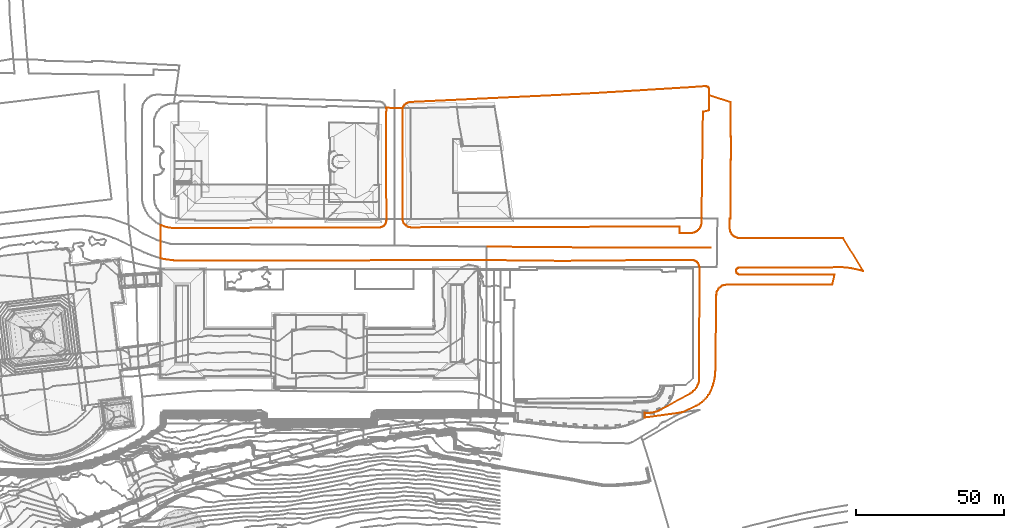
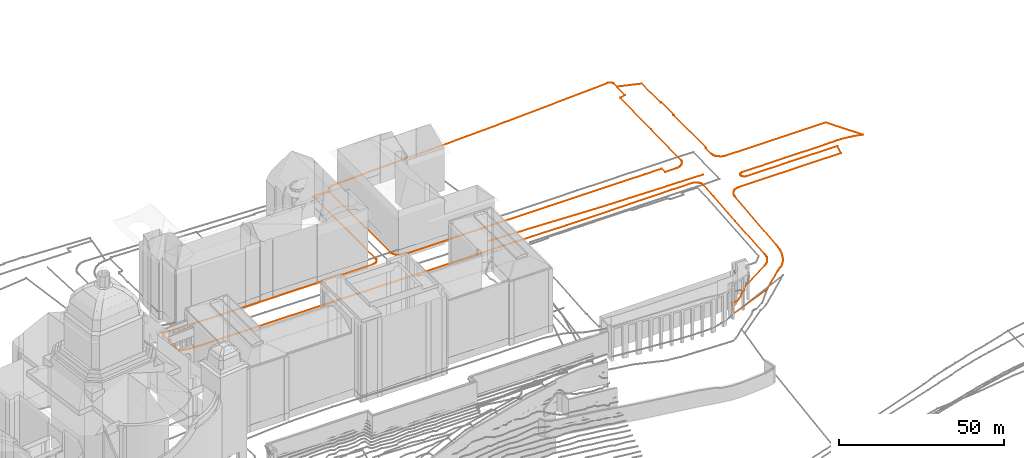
# Not in any storey, part 223 of 494: 3 proxies.
"""IFC2X3 model written with IfcOpenShell, lengths in metres."""

from ifc_helpers import new_model, entity, si_unit, frame, origin_with_axes, place, context, subcontext, project, element, save


model = new_model("IFC2X3")

# Units and contexts
model_context = context("Model", 3, precision=1e-05, world=origin_with_axes())
body_context = subcontext(model_context, "Body", "Model", "MODEL_VIEW")
ifc_project = project(units=[si_unit("AREAUNIT", "SQUARE_METRE"), si_unit("LENGTHUNIT", "METRE")], contexts=[model_context])

# Proxies
proxy_1_placement = place(None, frame((683.7557320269, 417.2007304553, 542.348), z_axis=(0.0, 0.0, 1.0), x_axis=(1.0, 0.0, 0.0)))
element("IfcBuildingElementProxy", 1, at=proxy_1_placement, Name="Road 37", ObjectType="NOTDEFINED", context=body_context, shape_type="GeometricCurveSet", body=[
    entity("IfcGeometricCurveSet", [entity("IfcPolyline", [entity("IfcCartesianPoint", [0.0, 0.0, 0.0]), entity("IfcCartesianPoint", [39.1219999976, -0.328999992, -0.998]), entity("IfcCartesianPoint", [75.5399999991, -0.2699999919, -1.55])])]),
])
proxy_2_placement = place(None, frame((655.3217320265, 463.4627160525, 542.5333745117), z_axis=(0.0, 0.0, 1.0), x_axis=(1.0, 0.0, 0.0)))
element("IfcBuildingElementProxy", 2, at=proxy_2_placement, Name="Roads Outline 49", ObjectType="NOTDEFINED", context=body_context, shape_type="GeometricCurveSet", body=[
    entity("IfcGeometricCurveSet", [entity("IfcPolyline", [entity("IfcCartesianPoint", [0.0, 0.0, 0.0]), entity("IfcCartesianPoint", [0.0380000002, 0.2349999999, 0.0022196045]), entity("IfcCartesianPoint", [0.0960000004, 0.4649999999, 0.0056074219]), entity("IfcCartesianPoint", [0.2630000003, 0.8999999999, 0.0153619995]), entity("IfcCartesianPoint", [0.4980000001, 1.301, 0.029088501]), entity("IfcCartesianPoint", [0.7950000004, 1.6599999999, 0.0464364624]), entity("IfcCartesianPoint", [1.1460000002, 1.9659999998, 0.0592036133]), entity("IfcCartesianPoint", [1.5430000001, 2.2109999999, 0.0718037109]), entity("IfcCartesianPoint", [1.9750000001, 2.3879999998, 0.0804522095]), entity("IfcCartesianPoint", [2.429, 2.4929999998, 0.0755475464]), entity("IfcCartesianPoint", [2.895, 2.524, 0.070220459]), entity("IfcCartesianPoint", [30.838, 3.8589999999, -0.0687895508]), entity("IfcCartesianPoint", [51.037, 4.8029999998, -0.0975834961]), entity("IfcCartesianPoint", [64.5640000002, 5.5059999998, -0.0975834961]), entity("IfcCartesianPoint", [65.77, 5.5799999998, -0.0975834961]), entity("IfcCartesianPoint", [97.1940000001, 7.5079999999, -0.0975834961]), entity("IfcCartesianPoint", [101.7340000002, 7.8429999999, -0.0975834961]), entity("IfcCartesianPoint", [102.0890000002, 7.8689999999, -0.0975834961]), entity("IfcCartesianPoint", [102.3480000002, 7.8559999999, -0.0975834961]), entity("IfcCartesianPoint", [102.5990000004, 7.7899999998, -0.0975834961]), entity("IfcCartesianPoint", [102.8300000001, 7.6739999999, -0.0975834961]), entity("IfcCartesianPoint", [103.0330000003, 7.5119999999, -0.0975834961]), entity("IfcCartesianPoint", [103.2110000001, 7.2959999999, -0.0975834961]), entity("IfcCartesianPoint", [103.3370000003, 7.0469999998, -0.0975834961]), entity("IfcCartesianPoint", [103.4050000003, 6.7759999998, -0.0975834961]), entity("IfcCartesianPoint", [103.4110000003, 6.4959999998, -0.0975834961]), entity("IfcCartesianPoint", [103.395, 4.7869999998, -0.0975834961]), entity("IfcCartesianPoint", [103.3470000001, -0.28, -0.0975834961]), entity("IfcCartesianPoint", [101.3400000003, -0.7980000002, -0.0975834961]), entity("IfcCartesianPoint", [101.0890000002, -19.8530000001, -0.0975834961]), entity("IfcCartesianPoint", [100.8670000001, -36.7070000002, -0.0697157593]), entity("IfcCartesianPoint", [100.8430000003, -38.5660000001, -0.1252501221]), entity("IfcCartesianPoint", [100.747, -39.0340000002, -0.1258526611]), entity("IfcCartesianPoint", [100.5900000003, -39.4840000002, -0.1055554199]), entity("IfcCartesianPoint", [100.3740000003, -39.9100000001, -0.0872841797]), entity("IfcCartesianPoint", [100.1030000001, -40.3030000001, -0.0727001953]), entity("IfcCartesianPoint", [99.7820000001, -40.6560000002, -0.0596005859]), entity("IfcCartesianPoint", [99.429, -40.9530000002, -0.0507507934]), entity("IfcCartesianPoint", [99.0410000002, -41.2030000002, -0.0448456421]), entity("IfcCartesianPoint", [98.6240000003, -41.4000000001, -0.0401923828]), entity("IfcCartesianPoint", [98.1850000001, -41.5420000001, -0.0368382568]), entity("IfcCartesianPoint", [97.7320000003, -41.625, -0.0348777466]), entity("IfcCartesianPoint", [97.2710000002, -41.6500000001, -0.0342872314]), entity("IfcCartesianPoint", [93.452, -41.6440000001, -0.0344289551]), entity("IfcCartesianPoint", [93.4410000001, -39.554, -0.1023980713]), entity("IfcCartesianPoint", [87.6530000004, -39.5680000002, -0.1017666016]), entity("IfcCartesianPoint", [53.8470000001, -39.5960000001, -0.1005036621]), entity("IfcCartesianPoint", [28.3020000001, -39.6850000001, -0.0732762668]), entity("IfcCartesianPoint", [2.838, -39.7680000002, -0.0694016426]), entity("IfcCartesianPoint", [2.426, -39.7150000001, -0.0871056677]), entity("IfcCartesianPoint", [2.0260000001, -39.6060000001, -0.0983853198]), entity("IfcCartesianPoint", [1.645, -39.442, -0.0781794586]), entity("IfcCartesianPoint", [1.29, -39.226, -0.0438067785]), entity("IfcCartesianPoint", [0.969, -38.9630000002, -0.0194923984]), entity("IfcCartesianPoint", [0.6880000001, -38.6580000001, -0.0108138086]), entity("IfcCartesianPoint", [0.4240000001, -38.2680000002, -0.0071667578]), entity("IfcCartesianPoint", [0.2250000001, -37.841, -0.0051163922]), entity("IfcCartesianPoint", [0.0960000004, -37.388, -0.0107059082]), entity("IfcCartesianPoint", [0.0410000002, -36.9200000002, -0.0164809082]), entity("IfcCartesianPoint", [0.04, -36.7410000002, -0.0163080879]), entity("IfcCartesianPoint", [0.0490000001, -36.5620000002, -0.0121205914]), entity("IfcCartesianPoint", [0.0, 0.0, 0.0])])]),
])
proxy_3_placement = place(None, frame((573.6847320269, 424.5197160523, 542.7638234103), z_axis=(0.0, 0.0, 1.0), x_axis=(1.0, 0.0, 0.0)))
element("IfcBuildingElementProxy", 3, at=proxy_3_placement, Name="Roads Outline 96", ObjectType="NOTDEFINED", context=body_context, shape_type="GeometricCurveSet", body=[
    entity("IfcGeometricCurveSet", [entity("IfcPolyline", [entity("IfcCartesianPoint", [0.0, 0.0, 0.0]), entity("IfcCartesianPoint", [0.2489999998, -0.115, 0.0011326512]), entity("IfcCartesianPoint", [0.5, -0.2239999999, 0.000881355]), entity("IfcCartesianPoint", [1.3329999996, -0.531, 0.0236473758]), entity("IfcCartesianPoint", [2.1879999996, -0.7679999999, 0.0206101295]), entity("IfcCartesianPoint", [3.0609999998, -0.9319999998, 0.0002791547]), entity("IfcCartesianPoint", [3.9439999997, -1.0229999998, 0.0152657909]), entity("IfcCartesianPoint", [4.8309999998, -1.041, 0.037650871]), entity("IfcCartesianPoint", [31.1329999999, -0.98, -0.0812635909]), entity("IfcCartesianPoint", [73.716, -0.875, -0.1935632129]), entity("IfcCartesianPoint", [74.1089999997, -0.8469999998, -0.1988061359]), entity("IfcCartesianPoint", [74.4919999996, -0.7559999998, -0.20711216]), entity("IfcCartesianPoint", [74.8559999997, -0.6069999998, -0.2119425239]), entity("IfcCartesianPoint", [75.193, -0.402, -0.2184551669]), entity("IfcCartesianPoint", [75.4919999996, -0.1459999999, -0.2262686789]), entity("IfcCartesianPoint", [75.7449999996, 0.152, -0.2375911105]), entity("IfcCartesianPoint", [75.949, 0.486, -0.2467470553]), entity("IfcCartesianPoint", [76.0970000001, 0.848, -0.2552292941]), entity("IfcCartesianPoint", [76.1869999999, 1.2290000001, -0.2625016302]), entity("IfcCartesianPoint", [76.216, 1.6190000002, -0.266546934]), entity("IfcCartesianPoint", [76.2149999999, 2.0110000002, -0.2710626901]), entity("IfcCartesianPoint", [76.1159999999, 38.084, -0.2791315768]), entity("IfcCartesianPoint", [76.1969999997, 38.5560000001, -0.2830026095]), entity("IfcCartesianPoint", [76.1979999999, 39.034, -0.2830504]), entity("IfcCartesianPoint", [76.1189999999, 39.5060000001, -0.2792749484]), entity("IfcCartesianPoint", [81.733, 39.4080000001, -0.2248414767]), entity("IfcCartesianPoint", [81.6749999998, 39.1780000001, -0.2282292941]), entity("IfcCartesianPoint", [81.6369999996, 38.9430000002, -0.2304488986]), entity("IfcCartesianPoint", [81.6859999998, 2.3810000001, -0.24256949]), entity("IfcCartesianPoint", [81.6769999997, 2.202, -0.2467569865]), entity("IfcCartesianPoint", [81.6779999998, 2.023, -0.2469298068]), entity("IfcCartesianPoint", [81.733, 1.5550000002, -0.2411548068]), entity("IfcCartesianPoint", [81.8619999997, 1.1020000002, -0.2355652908]), entity("IfcCartesianPoint", [82.0609999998, 0.675, -0.2376156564]), entity("IfcCartesianPoint", [82.3249999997, 0.2850000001, -0.2412627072]), entity("IfcCartesianPoint", [82.6059999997, -0.02, -0.2499412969]), entity("IfcCartesianPoint", [82.9269999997, -0.2829999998, -0.2742556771]), entity("IfcCartesianPoint", [83.2819999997, -0.4989999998, -0.3086283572]), entity("IfcCartesianPoint", [83.6629999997, -0.6629999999, -0.3288342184]), entity("IfcCartesianPoint", [84.0629999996, -0.7719999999, -0.3175545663]), entity("IfcCartesianPoint", [84.4749999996, -0.825, -0.2998505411]), entity("IfcCartesianPoint", [109.9389999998, -0.7419999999, -0.3037251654]), entity("IfcCartesianPoint", [135.4839999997, -0.6529999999, -0.3309525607]), entity("IfcCartesianPoint", [169.29, -0.625, -0.3322155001]), entity("IfcCartesianPoint", [175.0779999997, -0.6109999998, -0.3328469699]), entity("IfcCartesianPoint", [175.0889999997, -2.7009999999, -0.2648778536]), entity("IfcCartesianPoint", [178.9079999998, -2.7069999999, -0.26473613]), entity("IfcCartesianPoint", [179.3689999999, -2.6819999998, -0.2653266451]), entity("IfcCartesianPoint", [179.8219999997, -2.5989999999, -0.2672871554]), entity("IfcCartesianPoint", [180.2609999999, -2.4569999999, -0.2706412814]), entity("IfcCartesianPoint", [180.6779999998, -2.26, -0.2752945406]), entity("IfcCartesianPoint", [181.0659999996, -2.01, -0.281199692]), entity("IfcCartesianPoint", [181.4189999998, -1.713, -0.2900494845]), entity("IfcCartesianPoint", [181.7399999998, -1.3599999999, -0.3031490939]), entity("IfcCartesianPoint", [182.0109999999, -0.9669999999, -0.3177330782]), entity("IfcCartesianPoint", [182.227, -0.541, -0.3360043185]), entity("IfcCartesianPoint", [182.3839999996, -0.091, -0.3563015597]), entity("IfcCartesianPoint", [182.48, 0.3770000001, -0.3556990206]), entity("IfcCartesianPoint", [182.5039999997, 2.236, -0.3001646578]), entity("IfcCartesianPoint", [182.7259999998, 19.0900000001, -0.3280323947]), entity("IfcCartesianPoint", [182.977, 38.145, -0.3280323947]), entity("IfcCartesianPoint", [184.9839999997, 38.6630000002, -0.3280323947]), entity("IfcCartesianPoint", [185.0319999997, 43.73, -0.3280323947]), entity("IfcCartesianPoint", [192.2709999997, 41.3700000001, -0.3280323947]), entity("IfcCartesianPoint", [192.3169999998, 29.8350000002, -0.3280323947]), entity("IfcCartesianPoint", [192.5009999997, 29.8470000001, -0.3280323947]), entity("IfcCartesianPoint", [192.5419999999, 22.0550000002, -0.3280323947]), entity("IfcCartesianPoint", [192.2609999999, 22.0550000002, -0.3280323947]), entity("IfcCartesianPoint", [192.3169999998, 2.0860000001, -0.2987898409]), entity("IfcCartesianPoint", [192.0109999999, 2.0870000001, -0.2987711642]), entity("IfcCartesianPoint", [192.0049999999, -1.2389999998, -0.3076393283]), entity("IfcCartesianPoint", [192.0689999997, -1.716, -0.2899381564]), entity("IfcCartesianPoint", [192.1979999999, -2.179, -0.2772078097]), entity("IfcCartesianPoint", [192.389, -2.6199999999, -0.2667911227]), entity("IfcCartesianPoint", [192.6399999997, -3.0299999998, -0.2542454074]), entity("IfcCartesianPoint", [192.9449999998, -3.402, -0.2395779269]), entity("IfcCartesianPoint", [193.2739999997, -3.7089999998, -0.2274733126]), entity("IfcCartesianPoint", [193.6399999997, -3.97, -0.2252618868]), entity("IfcCartesianPoint", [194.037, -4.183, -0.2310861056]), entity("IfcCartesianPoint", [194.4569999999, -4.3429999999, -0.2354611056]), entity("IfcCartesianPoint", [194.895, -4.4469999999, -0.2383048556]), entity("IfcCartesianPoint", [195.3419999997, -4.4939999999, -0.2395900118]), entity("IfcCartesianPoint", [211.733, -4.46, -0.2386603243]), entity("IfcCartesianPoint", [230.2449999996, -4.3909999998, -0.2367736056]), entity("IfcCartesianPoint", [237.0430000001, -15.5989999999, -0.3627613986]), entity("IfcCartesianPoint", [236.5099999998, -15.4349999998, -0.3531520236]), entity("IfcCartesianPoint", [235.9739999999, -15.2799999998, -0.3440699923]), entity("IfcCartesianPoint", [234.4609999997, -14.919, -0.3229176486]), entity("IfcCartesianPoint", [232.9339999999, -14.6239999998, -0.3140095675]), entity("IfcCartesianPoint", [231.395, -14.3959999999, -0.309138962]), entity("IfcCartesianPoint", [230.1059999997, -14.2899999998, -0.3068745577]), entity("IfcCartesianPoint", [228.8139999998, -14.2449999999, -0.305913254]), entity("IfcCartesianPoint", [227.5219999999, -14.2609999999, -0.3062550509]), entity("IfcCartesianPoint", [226.2309999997, -14.338, -0.3078999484]), entity("IfcCartesianPoint", [210.551, -14.3689999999, -0.3085621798]), entity("IfcCartesianPoint", [195.318, -14.4029999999, -0.3092884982]), entity("IfcCartesianPoint", [195.037, -14.443, -0.3101429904]), entity("IfcCartesianPoint", [194.773, -14.548, -0.3123860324]), entity("IfcCartesianPoint", [194.5419999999, -14.7139999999, -0.3159321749]), entity("IfcCartesianPoint", [194.358, -14.9299999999, -0.3235621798]), entity("IfcCartesianPoint", [194.23, -15.1839999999, -0.3384449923]), entity("IfcCartesianPoint", [194.1669999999, -15.4609999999, -0.3546754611]), entity("IfcCartesianPoint", [194.173, -15.747, -0.3714332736]), entity("IfcCartesianPoint", [194.2479999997, -16.024, -0.3924382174]), entity("IfcCartesianPoint", [194.3869999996, -16.274, -0.4139073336]), entity("IfcCartesianPoint", [194.5829999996, -16.4839999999, -0.4319413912]), entity("IfcCartesianPoint", [194.824, -16.6399999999, -0.4453381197]), entity("IfcCartesianPoint", [195.0949999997, -16.733, -0.453324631]), entity("IfcCartesianPoint", [195.3799999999, -16.7579999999, -0.4554715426]), entity("IfcCartesianPoint", [210.6709999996, -16.6979999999, -0.4503189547]), entity("IfcCartesianPoint", [227.3529999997, -16.7169999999, -0.4519506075]), entity("IfcCartesianPoint", [226.5970000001, -20.1129999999, -0.7545797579]), entity("IfcCartesianPoint", [209.2419999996, -20.1479999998, -0.7558465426]), entity("IfcCartesianPoint", [190.98, -20.169, -0.7566066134]), entity("IfcCartesianPoint", [190.4579999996, -20.216, -0.7583077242]), entity("IfcCartesianPoint", [189.949, -20.3399999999, -0.7627957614]), entity("IfcCartesianPoint", [189.463, -20.537, -0.7699259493]), entity("IfcCartesianPoint", [189.0119999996, -20.804, -0.7795897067]), entity("IfcCartesianPoint", [188.605, -21.1339999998, -0.7939341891]), entity("IfcCartesianPoint", [188.2889999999, -21.4719999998, -0.8090146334]), entity("IfcCartesianPoint", [188.02, -21.8489999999, -0.825835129]), entity("IfcCartesianPoint", [187.801, -22.257, -0.867197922]), entity("IfcCartesianPoint", [187.6379999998, -22.6899999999, -0.9110951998]), entity("IfcCartesianPoint", [187.5329999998, -23.1409999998, -0.948779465]), entity("IfcCartesianPoint", [187.4979999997, -23.4129999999, -0.9688673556]), entity("IfcCartesianPoint", [187.4839999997, -23.6869999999, -0.9891029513]), entity("IfcCartesianPoint", [187.1510000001, -49.4949999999, -3.2466152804]), entity("IfcCartesianPoint", [187.0799999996, -50.5159999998, -3.3374651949]), entity("IfcCartesianPoint", [186.949, -51.531, -3.3479957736]), entity("IfcCartesianPoint", [186.7569999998, -52.5359999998, -3.3187373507]), entity("IfcCartesianPoint", [186.469, -53.645, -3.328140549]), entity("IfcCartesianPoint", [186.108, -54.733, -3.3339386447]), entity("IfcCartesianPoint", [185.6749999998, -55.794, -3.3742698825]), entity("IfcCartesianPoint", [185.1709999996, -56.8229999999, -3.3740601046]), entity("IfcCartesianPoint", [184.7549999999, -57.453, -3.3747660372]), entity("IfcCartesianPoint", [184.2989999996, -58.0549999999, -3.3930270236]), entity("IfcCartesianPoint", [183.8049999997, -58.6259999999, -3.4422367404]), entity("IfcCartesianPoint", [183.2739999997, -59.1629999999, -3.4822684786]), entity("IfcCartesianPoint", [182.7059999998, -59.6679999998, -3.5157419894]), entity("IfcCartesianPoint", [182.1059999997, -60.1339999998, -3.5446647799]), entity("IfcCartesianPoint", [181.477, -60.5599999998, -3.5699637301]), entity("IfcCartesianPoint", [180.821, -60.943, -3.5857439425]), entity("IfcCartesianPoint", [176.003, -63.2049999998, -7.1242233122]), entity("IfcCartesianPoint", [163.3289999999, -64.9609999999, -10.7134957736]), entity("IfcCartesianPoint", [163.352, -63.362, -7.8135131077]), entity("IfcCartesianPoint", [164.165, -63.4129999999, -8.0374225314]), entity("IfcCartesianPoint", [164.9789999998, -63.3899999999, -7.9364437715]), entity("IfcCartesianPoint", [165.7879999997, -63.294, -7.5149672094]), entity("IfcCartesianPoint", [166.585, -63.1239999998, -6.7686024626]), entity("IfcCartesianPoint", [167.3629999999, -62.8839999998, -5.7149110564]), entity("IfcCartesianPoint", [168.1159999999, -62.5739999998, -5.0143193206]), entity("IfcCartesianPoint", [168.838, -62.1969999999, -4.2645301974]), entity("IfcCartesianPoint", [178.622, -56.889, -3.3740431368]), entity("IfcCartesianPoint", [179.1919999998, -56.527, -3.3748369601]), entity("IfcCartesianPoint", [179.7179999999, -56.105, -3.375944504]), entity("IfcCartesianPoint", [180.1939999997, -55.6269999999, -3.3671450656]), entity("IfcCartesianPoint", [180.6140000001, -55.0989999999, -3.3446186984]), entity("IfcCartesianPoint", [180.9729999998, -54.5279999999, -3.3339136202]), entity("IfcCartesianPoint", [181.2379999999, -53.9879999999, -3.3338477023]), entity("IfcCartesianPoint", [181.4479999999, -53.4249999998, -3.3220040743]), entity("IfcCartesianPoint", [181.602, -52.8439999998, -3.3061421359]), entity("IfcCartesianPoint", [181.6979999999, -52.25, -3.3304329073]), entity("IfcCartesianPoint", [181.736, -51.6499999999, -3.3475599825]), entity("IfcCartesianPoint", [181.7519999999, -33.7619999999, -1.8984335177]), entity("IfcCartesianPoint", [181.7779999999, -20.5219999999, -0.7693830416]), entity("IfcCartesianPoint", [181.7760000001, -14.3659999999, -0.3084980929]), entity("IfcCartesianPoint", [181.773, -14.264, -0.3063191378]), entity("IfcCartesianPoint", [181.767, -14.1629999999, -0.304161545]), entity("IfcCartesianPoint", [181.6919999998, -13.7279999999, -0.2973134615]), entity("IfcCartesianPoint", [181.5439999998, -13.3119999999, -0.2968310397]), entity("IfcCartesianPoint", [181.327, -12.9269999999, -0.2963845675]), entity("IfcCartesianPoint", [181.048, -12.585, -0.3055592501]), entity("IfcCartesianPoint", [180.7609999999, -12.331, -0.3144734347]), entity("IfcCartesianPoint", [180.4399999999, -12.122, -0.3218083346]), entity("IfcCartesianPoint", [180.091, -11.963, -0.3273884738]), entity("IfcCartesianPoint", [179.7229999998, -11.8569999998, -0.3311085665]), entity("IfcCartesianPoint", [179.3429999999, -11.8069999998, -0.3347346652]), entity("IfcCartesianPoint", [172.1529999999, -11.8019999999, -0.3351329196]), entity("IfcCartesianPoint", [135.3629999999, -12.1399999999, -0.3211766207]), entity("IfcCartesianPoint", [110.1229999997, -11.875, -0.2874152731]), entity("IfcCartesianPoint", [85.7429999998, -11.9109999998, -0.2580695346]), entity("IfcCartesianPoint", [33.6229999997, -12.024, -0.0378189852]), entity("IfcCartesianPoint", [7.1029999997, -12.048, 0.031563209]), entity("IfcCartesianPoint", [5.8599999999, -12.0249999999, 0.0514780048]), entity("IfcCartesianPoint", [4.6189999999, -11.953, 0.0546086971]), entity("IfcCartesianPoint", [3.3819999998, -11.8329999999, 0.0453476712]), entity("IfcCartesianPoint", [2.1499999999, -11.666, 0.0176432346]), entity("IfcCartesianPoint", [1.0970000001, -11.4839999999, 0.0153037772]), entity("IfcCartesianPoint", [0.0499999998, -11.2679999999, -0.0027263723]), entity("IfcCartesianPoint", [0.0, 0.0, 0.0])])]),
])

save(model, "model.ifc")
